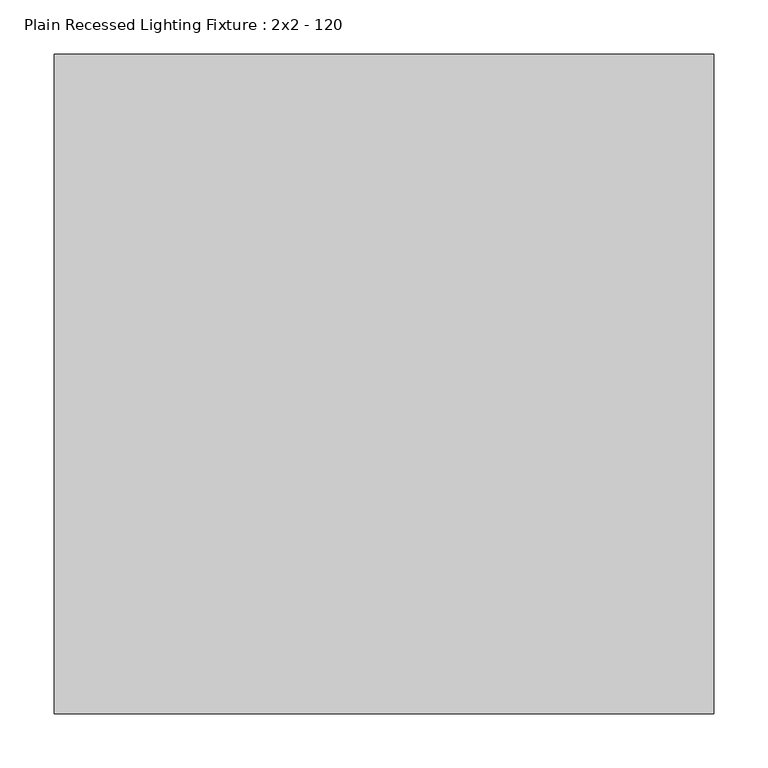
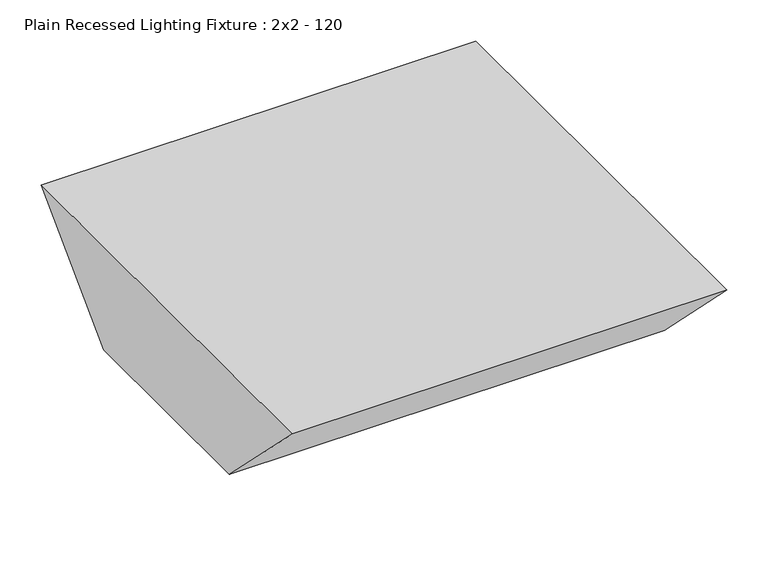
"""IFC4 building model written with IfcOpenShell, lengths in millimetres: light fixture geometry, Plain Recessed Lighting Fixture : 2x2 - 120."""

from ifc_helpers import new_model, si_unit, frame, origin, place, context, project, spatial, polyline, outline, extrude, source, transform, mapped, element, save


def plain_recessed_lighting_fixture_2x2_120_2107ce2d(model_context):
    return source(origin(), model_context, "Body", "SweptSolid", [
        extrude(outline(polyline([(-609.6, 0.0), (0.0, 0.0), (-152.4, -152.4), (-457.2, -152.4), (-609.6, 0.0)])), frame((0.0, 0.0, 0.0), z_axis=(1.0, 0.0, 0.0), x_axis=(0.0, 1.0, 0.0)), (0.0, 0.0, 1.0), 609.6),
    ])


if __name__ == "__main__":
    model = new_model("IFC4")
    model_context = context("Model", 3, world=origin())
    ifc_project = project(units=[si_unit("LENGTHUNIT", "METRE", prefix="MILLI")], contexts=[model_context])
    site = spatial("IfcSite", under=ifc_project)
    building = spatial("IfcBuilding", under=site)
    placement = place(None, origin())
    plain_recessed_lighting_fixture_2x2_120_shape = plain_recessed_lighting_fixture_2x2_120_2107ce2d(model_context)
    element("IfcLightFixture", 1, ObjectType="Plain Recessed Lighting Fixture : 2x2 - 120", at=placement, inside=building, context=model_context, shape_type="MappedRepresentation", body=[
        mapped(plain_recessed_lighting_fixture_2x2_120_shape, transform((0.0, 0.0, 0.0), x_axis=(1.0, 0.0, 0.0), y_axis=(0.0, 1.0, 0.0), z_axis=(0.0, 0.0, 1.0))),
    ])
    save(model, "model.ifc")
